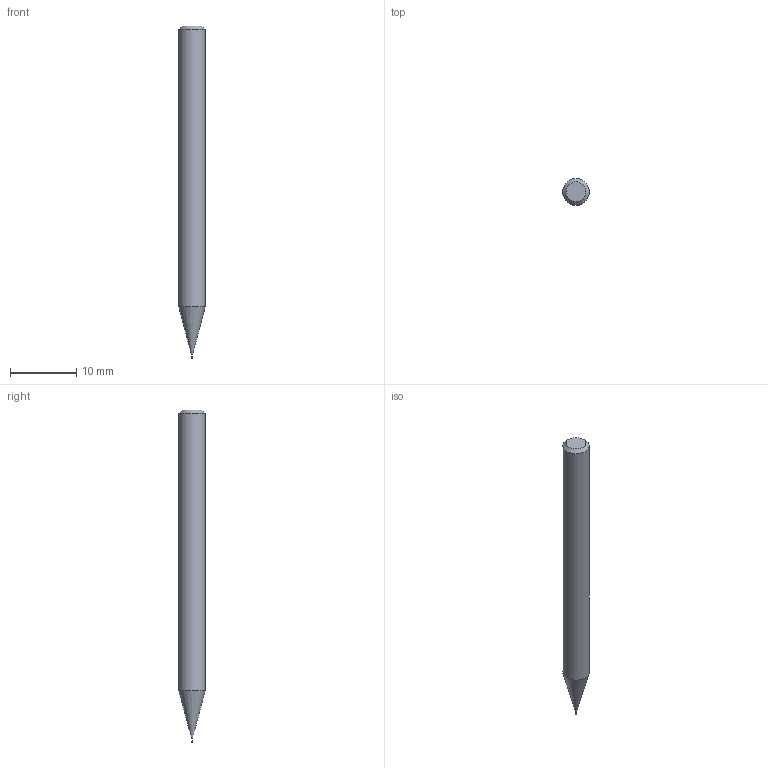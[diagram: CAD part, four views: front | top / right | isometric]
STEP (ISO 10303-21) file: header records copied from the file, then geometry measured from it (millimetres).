
FILE_DESCRIPTION((''),'2;1');
FILE_NAME('C:\Users\nsx150\AppData\Local\Temp\Mastercam 2021\LJSIDMOTM8\TEMP.step','2021-08-03T13:47:28',(''),(''),'STEP Write','Mastercam 2021 ... CNC Software, Inc.','');
FILE_SCHEMA(('AUTOMOTIVE_DESIGN'));
Length unit declared in the file: millimetre
Products named in the file (1): None
Bounding box: 4 x 4 x 50 mm (x, y, z)
Volume: 561.4 mm3; surface area: 588.8 mm2
Topology: 2 solids, 2 shells, 10 faces, 14 edges, 8 vertices
Faces by surface type: plane 4, cylinder 3, cone 2, torus 1
Full cylindrical faces by diameter (mm): 0.14 x1, 0.15 x1, 4 x1
Entity records: 232 total; most frequent: DIRECTION 40, CARTESIAN_POINT 28, AXIS2_PLACEMENT_3D 20, ORIENTED_EDGE 16, EDGE_LOOP 16, STYLED_ITEM 13, ADVANCED_FACE 10, FACE_BOUND 10
